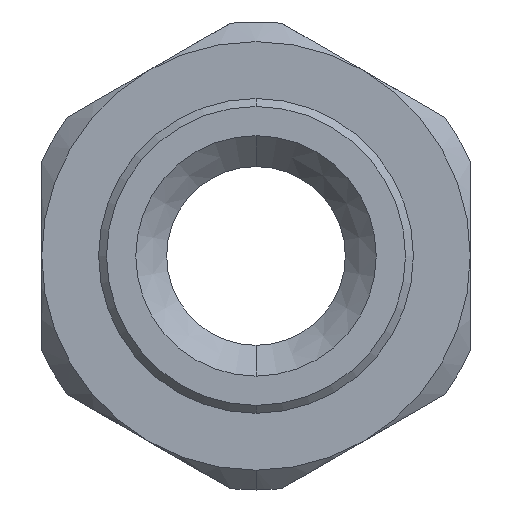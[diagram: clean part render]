
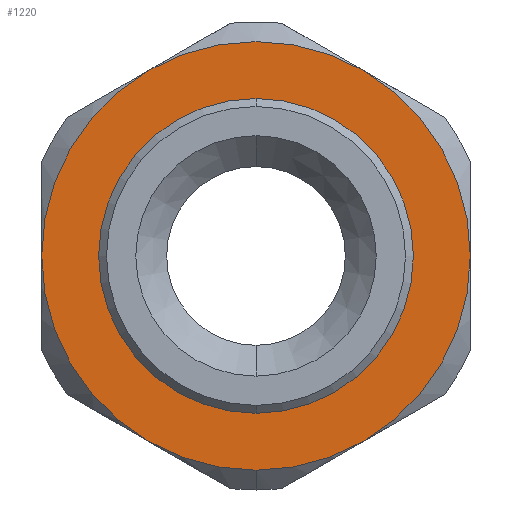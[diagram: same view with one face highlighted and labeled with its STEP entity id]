
A CAD part, front view. The second image highlights one B-rep face of the part: STEP entity #1220.
In plain terms, the highlighted planar face has unit normal (0, -1, 0).
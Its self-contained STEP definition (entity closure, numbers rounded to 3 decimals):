
#173 = CARTESIAN_POINT ( 'NONE',  ( 0., 1., 0. ) ) ;
#180 = DIRECTION ( 'NONE',  ( 0., -1., 0. ) ) ;
#181 = DIRECTION ( 'NONE',  ( 0., 0., -1. ) ) ;
#284 = CARTESIAN_POINT ( 'NONE',  ( 0., 1., 0. ) ) ;
#285 = DIRECTION ( 'NONE',  ( 0., -1., 0. ) ) ;
#286 = DIRECTION ( 'NONE',  ( 0., 0., -1. ) ) ;
#395 = CARTESIAN_POINT ( 'NONE',  ( 0., 1., 0. ) ) ;
#408 = DIRECTION ( 'NONE',  ( 0., -1., 0. ) ) ;
#409 = DIRECTION ( 'NONE',  ( 0., 0., -1. ) ) ;
#410 = CARTESIAN_POINT ( 'NONE',  ( 0., 1., 0. ) ) ;
#411 = DIRECTION ( 'NONE',  ( 0., -1., 0. ) ) ;
#412 = DIRECTION ( 'NONE',  ( 0., 0., -1. ) ) ;
#413 = CARTESIAN_POINT ( 'NONE',  ( 0., 1., 0. ) ) ;
#414 = DIRECTION ( 'NONE',  ( 0., -1., 0. ) ) ;
#415 = DIRECTION ( 'NONE',  ( 0., 0., -1. ) ) ;
#416 = CARTESIAN_POINT ( 'NONE',  ( 0., 1., 0. ) ) ;
#417 = DIRECTION ( 'NONE',  ( 0., -1., 0. ) ) ;
#418 = DIRECTION ( 'NONE',  ( 0., 0., -1. ) ) ;
#419 = CARTESIAN_POINT ( 'NONE',  ( 0., 1., 0. ) ) ;
#420 = DIRECTION ( 'NONE',  ( 0., -1., 0. ) ) ;
#421 = DIRECTION ( 'NONE',  ( 0., 0., -1. ) ) ;
#422 = CARTESIAN_POINT ( 'NONE',  ( 0., 1., 0. ) ) ;
#423 = DIRECTION ( 'NONE',  ( 0., -1., 0. ) ) ;
#424 = DIRECTION ( 'NONE',  ( 0., 0., -1. ) ) ;
#425 = CARTESIAN_POINT ( 'NONE',  ( 0., 1., 0. ) ) ;
#426 = DIRECTION ( 'NONE',  ( 0., -1., 0. ) ) ;
#427 = DIRECTION ( 'NONE',  ( 0., 0., -1. ) ) ;
#711 = CARTESIAN_POINT ( 'NONE',  ( -6.775, 1., -11.735 ) ) ;
#715 = CARTESIAN_POINT ( 'NONE',  ( 0., 1., 9.95 ) ) ;
#717 = CARTESIAN_POINT ( 'NONE',  ( 0., 1., -9.95 ) ) ;
#725 = CARTESIAN_POINT ( 'NONE',  ( -13.55, 1., 0. ) ) ;
#727 = CARTESIAN_POINT ( 'NONE',  ( -6.775, 1., 11.735 ) ) ;
#732 = CARTESIAN_POINT ( 'NONE',  ( 6.775, 1., 11.735 ) ) ;
#734 = CARTESIAN_POINT ( 'NONE',  ( 13.55, 1., 0. ) ) ;
#740 = CARTESIAN_POINT ( 'NONE',  ( 0., 1., -13.55 ) ) ;
#773 = CARTESIAN_POINT ( 'NONE',  ( 6.775, 1., -11.735 ) ) ;
#913 = ORIENTED_EDGE ( 'NONE', *, *, #1288, .F. ) ;
#914 = ORIENTED_EDGE ( 'NONE', *, *, #1352, .F. ) ;
#915 = ORIENTED_EDGE ( 'NONE', *, *, #1353, .T. ) ;
#916 = ORIENTED_EDGE ( 'NONE', *, *, #1354, .T. ) ;
#917 = ORIENTED_EDGE ( 'NONE', *, *, #1351, .T. ) ;
#918 = ORIENTED_EDGE ( 'NONE', *, *, #1355, .T. ) ;
#919 = ORIENTED_EDGE ( 'NONE', *, *, #1356, .T. ) ;
#920 = ORIENTED_EDGE ( 'NONE', *, *, #1321, .T. ) ;
#921 = ORIENTED_EDGE ( 'NONE', *, *, #1357, .T. ) ;
#1077 = CIRCLE ( 'NONE', #1579, 13.55 ) ;
#1078 = CIRCLE ( 'NONE', #1580, 13.55 ) ;
#1079 = CIRCLE ( 'NONE', #1581, 13.55 ) ;
#1080 = CIRCLE ( 'NONE', #1583, 13.55 ) ;
#1081 = CIRCLE ( 'NONE', #1588, 13.55 ) ;
#1082 = CIRCLE ( 'NONE', #1592, 9.95 ) ;
#1083 = CIRCLE ( 'NONE', #1590, 13.55 ) ;
#1094 = CIRCLE ( 'NONE', #1607, 13.55 ) ;
#1109 = CIRCLE ( 'NONE', #1642, 9.95 ) ;
#1220 = ADVANCED_FACE ( 'NONE', ( #1769, #1766 ), #2437, .F. ) ;
#1288 = EDGE_CURVE ( 'NONE', #2144, #2142, #1109, .T. ) ;
#1321 = EDGE_CURVE ( 'NONE', #2167, #2200, #1094, .T. ) ;
#1351 = EDGE_CURVE ( 'NONE', #2159, #2154, #1083, .T. ) ;
#1352 = EDGE_CURVE ( 'NONE', #2142, #2144, #1082, .T. ) ;
#1353 = EDGE_CURVE ( 'NONE', #2161, #2159, #1081, .T. ) ;
#1354 = EDGE_CURVE ( 'NONE', #2154, #2152, #1080, .T. ) ;
#1355 = EDGE_CURVE ( 'NONE', #2152, #2138, #1079, .T. ) ;
#1356 = EDGE_CURVE ( 'NONE', #2138, #2167, #1078, .T. ) ;
#1357 = EDGE_CURVE ( 'NONE', #2200, #2161, #1077, .T. ) ;
#1579 = AXIS2_PLACEMENT_3D ( 'NONE', #425, #426, #427 ) ;
#1580 = AXIS2_PLACEMENT_3D ( 'NONE', #422, #423, #424 ) ;
#1581 = AXIS2_PLACEMENT_3D ( 'NONE', #419, #420, #421 ) ;
#1583 = AXIS2_PLACEMENT_3D ( 'NONE', #416, #417, #418 ) ;
#1588 = AXIS2_PLACEMENT_3D ( 'NONE', #413, #414, #415 ) ;
#1590 = AXIS2_PLACEMENT_3D ( 'NONE', #395, #408, #409 ) ;
#1592 = AXIS2_PLACEMENT_3D ( 'NONE', #410, #411, #412 ) ;
#1607 = AXIS2_PLACEMENT_3D ( 'NONE', #284, #285, #286 ) ;
#1642 = AXIS2_PLACEMENT_3D ( 'NONE', #173, #180, #181 ) ;
#1763 = AXIS2_PLACEMENT_3D ( 'NONE', #2438, #2439, #2440 ) ;
#1766 = FACE_OUTER_BOUND ( 'NONE', #1949, .T. ) ;
#1769 = FACE_BOUND ( 'NONE', #1950, .T. ) ;
#1949 = EDGE_LOOP ( 'NONE', ( #915, #917, #916, #918, #919, #920, #921 ) ) ;
#1950 = EDGE_LOOP ( 'NONE', ( #913, #914 ) ) ;
#2138 = VERTEX_POINT ( 'NONE', #711 ) ;
#2142 = VERTEX_POINT ( 'NONE', #715 ) ;
#2144 = VERTEX_POINT ( 'NONE', #717 ) ;
#2152 = VERTEX_POINT ( 'NONE', #725 ) ;
#2154 = VERTEX_POINT ( 'NONE', #727 ) ;
#2159 = VERTEX_POINT ( 'NONE', #732 ) ;
#2161 = VERTEX_POINT ( 'NONE', #734 ) ;
#2167 = VERTEX_POINT ( 'NONE', #740 ) ;
#2200 = VERTEX_POINT ( 'NONE', #773 ) ;
#2437 = PLANE ( 'NONE',  #1763 ) ;
#2438 = CARTESIAN_POINT ( 'NONE',  ( -14.8, 1., 0. ) ) ;
#2439 = DIRECTION ( 'NONE',  ( 0., 1., 0. ) ) ;
#2440 = DIRECTION ( 'NONE',  ( 0., 0., 1. ) ) ;
